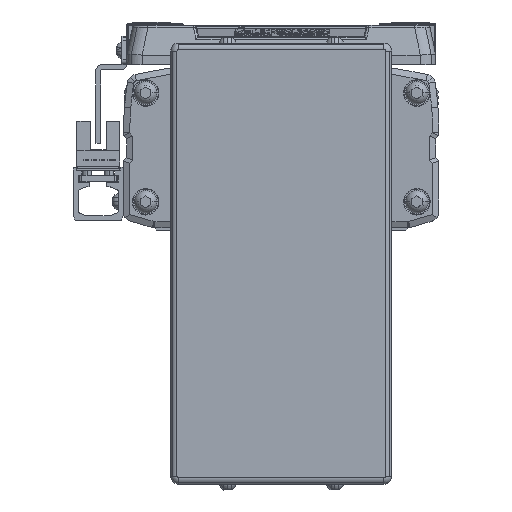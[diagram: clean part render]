
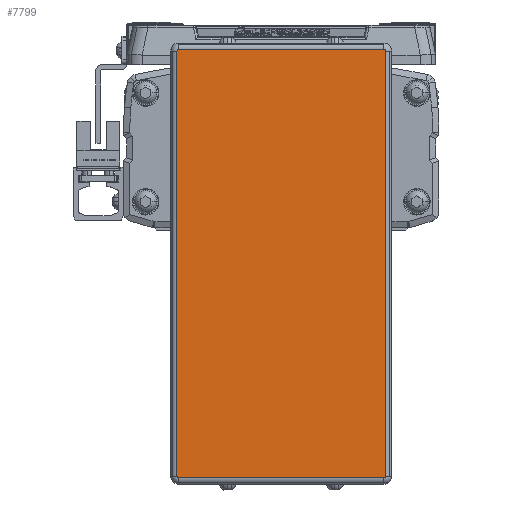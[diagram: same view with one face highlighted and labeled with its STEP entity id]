
A CAD part, left-side view. The second image highlights one B-rep face of the part: STEP entity #7799.
In plain terms, the highlighted planar face has unit normal (-1, 0, 0).
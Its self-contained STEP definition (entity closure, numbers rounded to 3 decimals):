
#7799=ADVANCED_FACE('',(#15656),#15657,.F.);
#15656=FACE_OUTER_BOUND('',#24056,.T.);
#15657=PLANE('',#24057);
#24056=EDGE_LOOP('',(#46090,#46091,#46092,#46093,#46094,#46095,#46096,#46097));
#24057=AXIS2_PLACEMENT_3D('',#46098,#46099,#46100);
#46090=ORIENTED_EDGE('',*,*,#55571,.T.);
#46091=ORIENTED_EDGE('',*,*,#53125,.T.);
#46092=ORIENTED_EDGE('',*,*,#46950,.T.);
#46093=ORIENTED_EDGE('',*,*,#54043,.T.);
#46094=ORIENTED_EDGE('',*,*,#54308,.T.);
#46095=ORIENTED_EDGE('',*,*,#46905,.T.);
#46096=ORIENTED_EDGE('',*,*,#53114,.T.);
#46097=ORIENTED_EDGE('',*,*,#52714,.T.);
#46098=CARTESIAN_POINT('',(-616.0,0.,-41.6));
#46099=DIRECTION('',(1.0,0.,0.));
#46100=DIRECTION('',(0.,0.,1.0));
#46905=EDGE_CURVE('',#55726,#55724,#55727,.T.);
#46950=EDGE_CURVE('',#55808,#55806,#55809,.T.);
#52714=EDGE_CURVE('',#65080,#65078,#65081,.T.);
#53114=EDGE_CURVE('',#55724,#65080,#65636,.T.);
#53125=EDGE_CURVE('',#65649,#55808,#65650,.T.);
#54043=EDGE_CURVE('',#55806,#66814,#66816,.T.);
#54308=EDGE_CURVE('',#66814,#55726,#67137,.T.);
#55571=EDGE_CURVE('',#65078,#65649,#68543,.T.);
#55724=VERTEX_POINT('',#68698);
#55726=VERTEX_POINT('',#68700);
#55727=CIRCLE('',#68701,0.5);
#55806=VERTEX_POINT('',#68805);
#55808=VERTEX_POINT('',#68807);
#55809=LINE('',#68808,#68809);
#65078=VERTEX_POINT('',#81442);
#65080=VERTEX_POINT('',#81444);
#65081=CIRCLE('',#81445,0.5);
#65636=LINE('',#82190,#82191);
#65649=VERTEX_POINT('',#82208);
#65650=CIRCLE('',#82209,0.5);
#66814=VERTEX_POINT('',#83848);
#66816=CIRCLE('',#83850,0.5);
#67137=LINE('',#84284,#84285);
#68543=LINE('',#86238,#86239);
#68698=CARTESIAN_POINT('',(-616.0,32.55,-109.5));
#68700=CARTESIAN_POINT('',(-616.0,33.05,-109.));
#68701=AXIS2_PLACEMENT_3D('',#86414,#86415,#86416);
#68805=CARTESIAN_POINT('',(-616.,32.55,26.3));
#68807=CARTESIAN_POINT('',(-616.,-32.55,26.3));
#68808=CARTESIAN_POINT('',(-616.,0.,26.3));
#68809=VECTOR('',#86475,10.0);
#81442=CARTESIAN_POINT('',(-616.0,-33.05,-109.));
#81444=CARTESIAN_POINT('',(-616.0,-32.55,-109.5));
#81445=AXIS2_PLACEMENT_3D('',#94173,#94174,#94175);
#82190=CARTESIAN_POINT('',(-616.0,0.,-109.5));
#82191=VECTOR('',#94658,10.0);
#82208=CARTESIAN_POINT('',(-616.,-33.05,25.8));
#82209=AXIS2_PLACEMENT_3D('',#94672,#94673,#94674);
#83848=CARTESIAN_POINT('',(-616.,33.05,25.8));
#83850=AXIS2_PLACEMENT_3D('',#95749,#95750,#95751);
#84284=CARTESIAN_POINT('',(-616.0,33.05,-41.6));
#84285=VECTOR('',#96026,10.0);
#86238=CARTESIAN_POINT('',(-616.,-33.05,-41.6));
#86239=VECTOR('',#97167,10.0);
#86414=CARTESIAN_POINT('',(-616.0,32.55,-109.));
#86415=DIRECTION('',(-1.0,0.,0.));
#86416=DIRECTION('',(0.,0.707,-0.707));
#86475=DIRECTION('',(0.,1.0,0.));
#94173=CARTESIAN_POINT('',(-616.0,-32.55,-109.));
#94174=DIRECTION('',(-1.0,0.,0.));
#94175=DIRECTION('',(0.,-0.707,-0.707));
#94658=DIRECTION('',(0.,-1.0,0.));
#94672=CARTESIAN_POINT('',(-616.,-32.55,25.8));
#94673=DIRECTION('',(-1.0,0.,0.));
#94674=DIRECTION('',(0.,-0.707,0.707));
#95749=CARTESIAN_POINT('',(-616.,32.55,25.8));
#95750=DIRECTION('',(-1.0,0.,0.));
#95751=DIRECTION('',(0.,0.707,0.707));
#96026=DIRECTION('',(0.,0.,-1.0));
#97167=DIRECTION('',(0.,0.,1.0));
